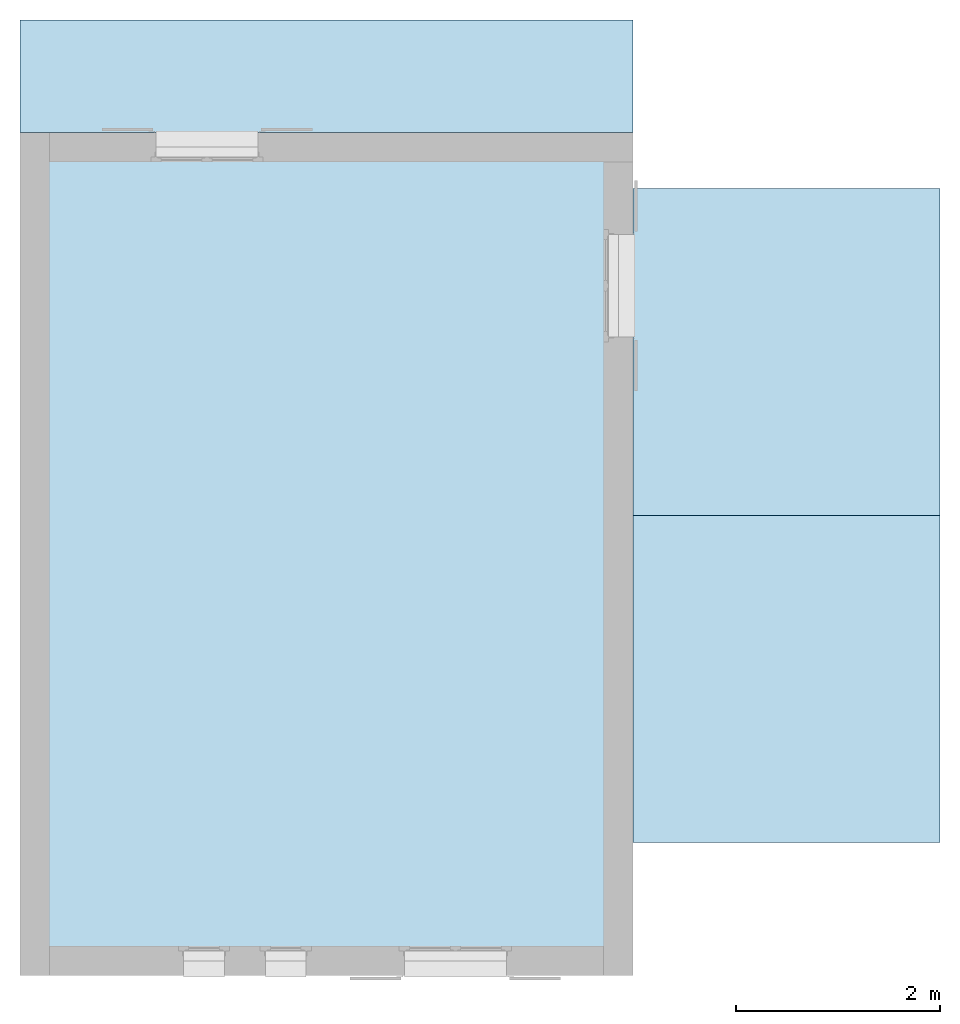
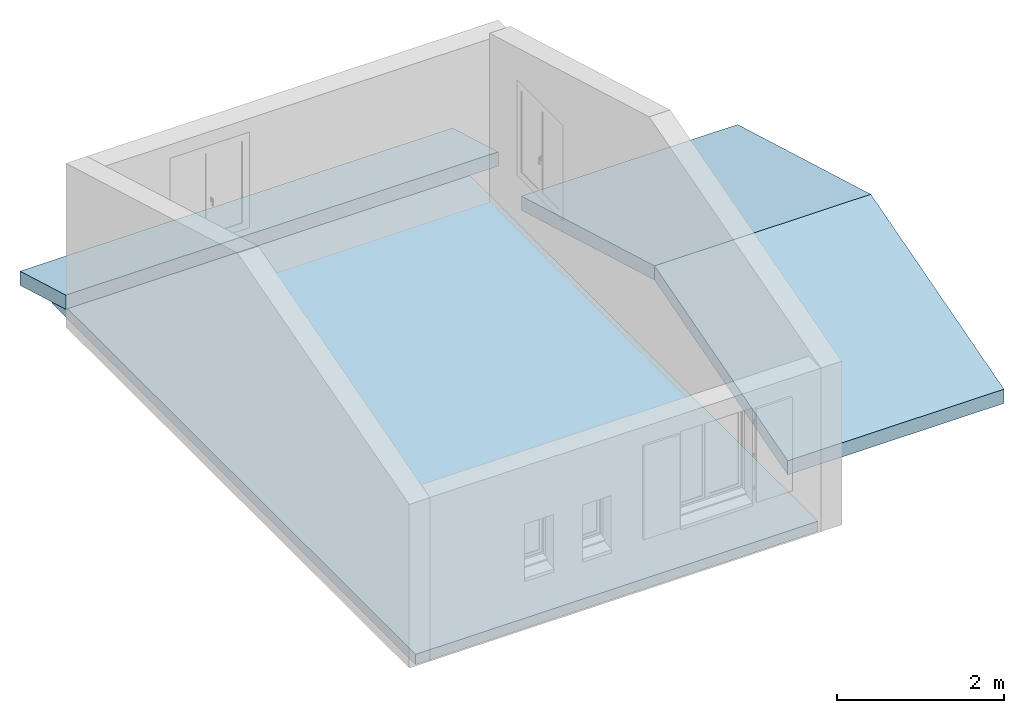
# One storey, part 1 of 6: 4 slabs, 2 elements without a shape of their own.
"""IFC2X3 building model written with IfcOpenShell, lengths in metres."""

from ifc_helpers import new_model, entity, si_unit, converted_unit, derived_unit, direction, frame, frame_2d, origin, place, context, subcontext, project, spatial, rectangle, extrude, material, layer, layer_set, layer_usage, element, aggregate, save


model = new_model("IFC2X3")

# Units and contexts
model_context = context("Model", 3, precision=1e-05, world=origin(), true_north=direction((6.12303176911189e-17, 1.0)))
context_of_model = context(None, 3, precision=1e-05, world=origin(), true_north=direction((6.12303176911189e-17, 1.0)))
body_context = subcontext(model_context, "Body", "Model", "MODEL_VIEW")
ifc_project = project(units=[si_unit("LENGTHUNIT", "METRE"), si_unit("AREAUNIT", "SQUARE_METRE"), si_unit("VOLUMEUNIT", "CUBIC_METRE"), converted_unit("PLANEANGLEUNIT", "DEGREE", entity("IfcRatioMeasure", 0.0174532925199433), si_unit("PLANEANGLEUNIT", "RADIAN"), dimensions=[0, 0, 0, 0, 0, 0, 0]), si_unit("MASSUNIT", "GRAM", prefix="KILO"), si_unit("TIMEUNIT", "SECOND"), si_unit("FREQUENCYUNIT", "HERTZ"), si_unit("THERMODYNAMICTEMPERATUREUNIT", "DEGREE_CELSIUS"), derived_unit("THERMALTRANSMITTANCEUNIT", [(si_unit("MASSUNIT", "GRAM", prefix="KILO"), 1), (si_unit("THERMODYNAMICTEMPERATUREUNIT", "KELVIN"), -1), (si_unit("TIMEUNIT", "SECOND"), -3)]), derived_unit("VOLUMETRICFLOWRATEUNIT", [(si_unit("LENGTHUNIT", "METRE"), 3), (si_unit("TIMEUNIT", "SECOND"), -1)]), si_unit("ELECTRICCURRENTUNIT", "AMPERE"), si_unit("ELECTRICVOLTAGEUNIT", "VOLT"), si_unit("POWERUNIT", "WATT"), si_unit("FORCEUNIT", "NEWTON", prefix="KILO"), si_unit("ILLUMINANCEUNIT", "LUX"), si_unit("LUMINOUSFLUXUNIT", "LUMEN"), si_unit("LUMINOUSINTENSITYUNIT", "CANDELA"), si_unit("PRESSUREUNIT", "PASCAL")], contexts=[model_context, context_of_model])

# Site, building, storey
site_placement = place(None, origin())
site = spatial("IfcSite", under=ifc_project, at=site_placement, Name="Surface", CompositionType="ELEMENT")
building_placement = place(site_placement, origin())
building = spatial("IfcBuilding", under=site, at=building_placement, CompositionType="ELEMENT")
storey_placement = place(building_placement, frame((0.0, 0.0, 2.64)))
storey = spatial("IfcBuildingStorey", under=building, at=storey_placement, Name="Niveau 1", CompositionType="ELEMENT", Elevation=2.64)

# Slab
ifc_material_1 = material(Name="Maçonnerie - Béton")
ifc_layer_1 = layer(ifc_material_1, 0.15)
ifc_layer_set_1 = layer_set([ifc_layer_1], Name="Sol:Dalle en béton - 150 mm")
ifc_layer_usage = layer_usage(ifc_layer_set_1, "AXIS3", "POSITIVE", 0.0)
slab_1_placement = place(storey_placement, origin())
element("IfcSlab", 1, at=slab_1_placement, inside=storey, material=ifc_layer_usage, Name="Sol:Dalle en béton - 150 mm", ObjectType="Sol:Dalle en béton - 150 mm", PredefinedType="FLOOR", context=body_context, shape_type="SweptSolid", body=[
    extrude(rectangle(XDim=8.73, YDim=5.58, at=frame_2d((-4.44089209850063e-15, 0.0), x_axis=(1.0, 0.0))), frame((-5.79909160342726, -2.78358265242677, 0.0), z_axis=(0.0, 0.0, -1.0), x_axis=(0.0, 1.0, 0.0)), (0.0, 0.0, 1.0), 0.15),
])

# Roof, slab
roof_1_placement = place(storey_placement, frame((-8.79909160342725, 0.891417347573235, -0.0573490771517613)))
roof_1 = element("IfcRoof", 2, at=roof_1_placement, inside=storey, Name="Toit de base:Toit - 200 mm", ObjectType="Toit de base:Toit - 200 mm", ShapeType="NOTDEFINED")
ifc_material_2 = material(Name="Toit par défaut")
ifc_layer_2 = layer(ifc_material_2, 0.2)
ifc_layer_set_2 = layer_set([ifc_layer_2], Name="Toit de base:Toit - 200 mm")
slab_2_placement = place(roof_1_placement, origin())
slab_2 = element("IfcSlab", 3, at=slab_2_placement, material=ifc_layer_set_2, Name="Toit de base:Toit - 200 mm", ObjectType="Toit de base:Toit - 200 mm", PredefinedType="ROOF", context=body_context, shape_type="SweptSolid", body=[
    extrude(rectangle(XDim=1.14432937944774, YDim=6.0, at=frame_2d((0.0, 0.0), x_axis=(0.0, 1.0))), frame((3.0, 0.550000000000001, 0.157709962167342), z_axis=(0.0, 0.275637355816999, 0.961261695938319), x_axis=(1.0, 0.0, 0.0)), (0.0, -0.275637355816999, 0.961261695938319), 0.20805988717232),
])
aggregate(roof_1, [slab_2])

# Roof, slabs
roof_2_placement = place(storey_placement, frame((-2.79909160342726, -6.05858265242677, -0.0573490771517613)))
roof_2 = element("IfcRoof", 4, at=roof_2_placement, inside=storey, Name="Toit de base:Toit - 200 mm", ObjectType="Toit de base:Toit - 200 mm", ShapeType="NOTDEFINED")
slab_3_placement = place(roof_2_placement, origin())
slab_3 = element("IfcSlab", 5, at=slab_3_placement, material=ifc_layer_set_2, Name="Toit de base:Toit - 200 mm", ObjectType="Toit de base:Toit - 200 mm", PredefinedType="ROOF", context=body_context, shape_type="SweptSolid", body=[
    extrude(rectangle(XDim=3.32895819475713, YDim=3.0, at=frame_2d((-3.33066907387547e-15, 0.0), x_axis=(0.0, -1.0))), frame((1.50000000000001, 4.8, 0.458792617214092), z_axis=(0.0, 0.275637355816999, 0.961261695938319), x_axis=(1.0, 0.0, 0.0)), (0.0, -0.275637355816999, 0.961261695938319), 0.20805988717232),
])
slab_4_placement = place(roof_2_placement, origin())
slab_4 = element("IfcSlab", 6, at=slab_4_placement, material=ifc_layer_set_2, Name="Toit de base:Toit - 200 mm", ObjectType="Toit de base:Toit - 200 mm", PredefinedType="ROOF", context=body_context, shape_type="SweptSolid", body=[
    extrude(rectangle(XDim=2.99999999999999, YDim=3.32895819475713, at=frame_2d((2.44249065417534e-15, 0.0), x_axis=(-1.0, 0.0))), frame((1.49999999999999, 1.6, 0.458792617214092), z_axis=(0.0, -0.275637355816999, 0.961261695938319), x_axis=(1.0, 0.0, 0.0)), (0.0, 0.275637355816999, 0.961261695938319), 0.20805988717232),
])
aggregate(roof_2, [slab_3, slab_4])

save(model, "model.ifc")
